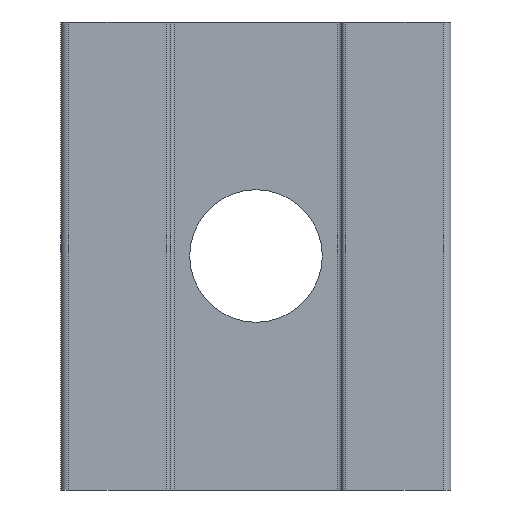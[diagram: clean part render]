
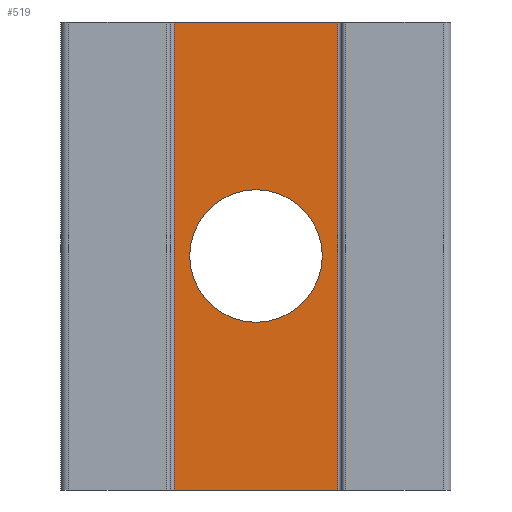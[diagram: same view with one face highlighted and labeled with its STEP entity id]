
A CAD part, front view. The second image highlights one B-rep face of the part: STEP entity #519.
In plain terms, the highlighted planar face has unit normal (0, -1, 0).
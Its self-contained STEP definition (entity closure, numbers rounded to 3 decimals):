
#16=FACE_BOUND('',#75,.T.);
#23=PLANE('',#589);
#46=FACE_OUTER_BOUND('',#74,.T.);
#74=EDGE_LOOP('',(#421,#422,#423,#424));
#75=EDGE_LOOP('',(#425));
#98=LINE('',#812,#147);
#121=LINE('',#880,#170);
#122=LINE('',#884,#171);
#123=LINE('',#885,#172);
#147=VECTOR('',#644,10.);
#170=VECTOR('',#715,10.);
#171=VECTOR('',#720,10.);
#172=VECTOR('',#721,10.);
#208=CIRCLE('',#590,4.25);
#233=VERTEX_POINT('',#809);
#234=VERTEX_POINT('',#811);
#255=VERTEX_POINT('',#879);
#256=VERTEX_POINT('',#883);
#257=VERTEX_POINT('',#886);
#285=EDGE_CURVE('',#233,#234,#98,.T.);
#319=EDGE_CURVE('',#234,#255,#121,.T.);
#321=EDGE_CURVE('',#256,#233,#122,.T.);
#322=EDGE_CURVE('',#255,#256,#123,.T.);
#323=EDGE_CURVE('',#257,#257,#208,.T.);
#421=ORIENTED_EDGE('',*,*,#319,.F.);
#422=ORIENTED_EDGE('',*,*,#285,.F.);
#423=ORIENTED_EDGE('',*,*,#321,.F.);
#424=ORIENTED_EDGE('',*,*,#322,.F.);
#425=ORIENTED_EDGE('',*,*,#323,.T.);
#519=ADVANCED_FACE('',(#46,#16),#23,.T.);
#589=AXIS2_PLACEMENT_3D('',#882,#718,#719);
#590=AXIS2_PLACEMENT_3D('',#887,#722,#723);
#644=DIRECTION('',(-1.,0.,0.));
#715=DIRECTION('',(0.,0.,1.));
#718=DIRECTION('center_axis',(0.,-1.,0.));
#719=DIRECTION('ref_axis',(1.,0.,0.));
#720=DIRECTION('',(0.,0.,-1.));
#721=DIRECTION('',(1.,0.,0.));
#722=DIRECTION('center_axis',(0.,1.,0.));
#723=DIRECTION('ref_axis',(1.,0.,0.));
#809=CARTESIAN_POINT('',(5.25,-1.75,-15.));
#811=CARTESIAN_POINT('',(-5.25,-1.75,-15.));
#812=CARTESIAN_POINT('',(-12.5,-1.75,-15.));
#879=CARTESIAN_POINT('',(-5.25,-1.75,15.));
#880=CARTESIAN_POINT('',(-5.25,-1.75,0.));
#882=CARTESIAN_POINT('Origin',(-12.5,-1.75,0.));
#883=CARTESIAN_POINT('',(5.25,-1.75,15.));
#884=CARTESIAN_POINT('',(5.25,-1.75,0.));
#885=CARTESIAN_POINT('',(-12.5,-1.75,15.));
#886=CARTESIAN_POINT('',(-4.25,-1.75,0.));
#887=CARTESIAN_POINT('Origin',(0.,-1.75,0.));
